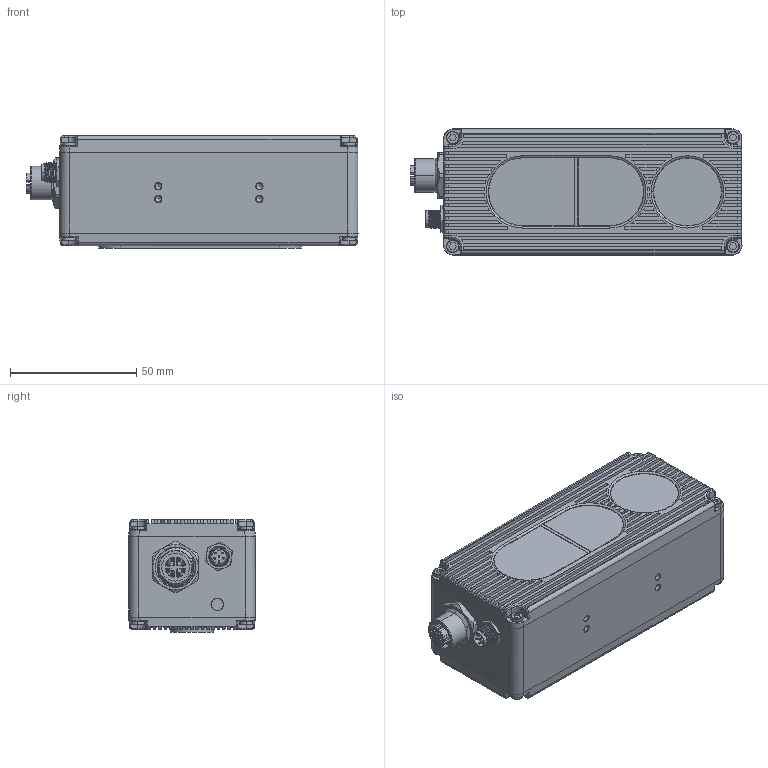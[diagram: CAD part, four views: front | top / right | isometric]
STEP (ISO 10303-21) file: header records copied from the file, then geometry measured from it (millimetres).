
FILE_DESCRIPTION(/* description */ (''),/* implementation_level */ '2;1');
FILE_NAME(/* name */ 'NEVO87_NYX660-Mechanical_Outline_3D_stp_stp_stp.stp',/* time_stamp */ '2024-06-18T15:08:06+08:00',/* author */ (''),/* organization */ (''),/* preprocessor_version */ 'ST-DEVELOPER v16',/* originating_system */ 'SIEMENS PLM Software NX 10.0',/* authorisation */ '');
FILE_SCHEMA (('AUTOMOTIVE_DESIGN { 1 0 10303 214 3 1 1 1 }'));
Products named in the file (1): cade6108E47C9gyi
Bounding box: 131.3 x 50 x 44.5 mm (x, y, z)
Volume: 252647 mm3; surface area: 40402.7 mm2
Topology: 14 solids, 21 shells, 1671 faces, 4598 edges, 3077 vertices
Faces by surface type: plane 747, cylinder 529, bspline 153, cone 128, torus 102, sphere 12
Full cylindrical faces by diameter (mm): 2.5 x4, 5 x1
Entity records: 90245 total; most frequent: CARTESIAN_POINT 48645, ORIENTED_EDGE 9128, DIRECTION 7914, EDGE_CURVE 4564, VERTEX_POINT 3072, AXIS2_PLACEMENT_3D 2893, LINE 2128, VECTOR 2128
